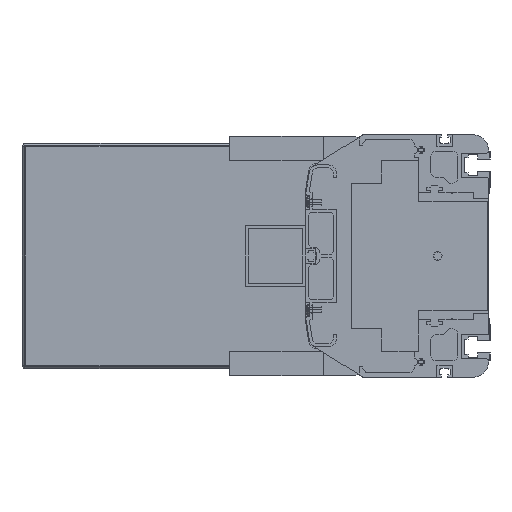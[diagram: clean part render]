
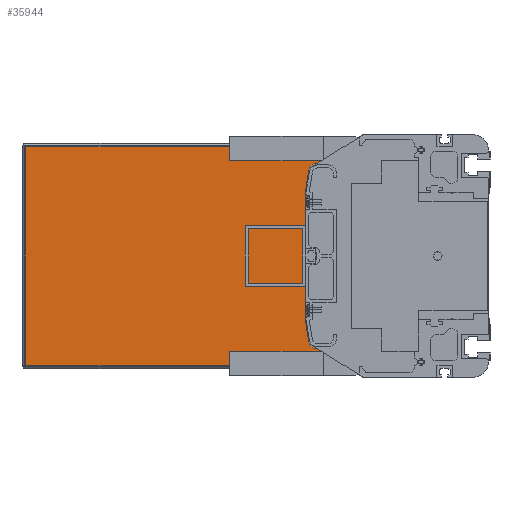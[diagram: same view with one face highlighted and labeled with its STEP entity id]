
A CAD part, left-side view. The second image highlights one B-rep face of the part: STEP entity #35944.
In plain terms, the highlighted planar face has unit normal (-1, 0, 0).
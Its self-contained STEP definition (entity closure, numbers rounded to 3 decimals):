
#2904=DIRECTION('',(0.,0.,-1.));
#2905=VECTOR('',#2904,11.);
#2906=CARTESIAN_POINT('',(3586.5,86.,-61.));
#2907=LINE('',#2906,#2905);
#2913=DIRECTION('',(0.,0.,-1.));
#2914=VECTOR('',#2913,11.);
#2915=CARTESIAN_POINT('',(3586.5,86.,72.));
#2916=LINE('',#2915,#2914);
#2926=DIRECTION('',(0.,-1.,0.));
#2927=VECTOR('',#2926,220.5);
#2928=CARTESIAN_POINT('',(3586.5,306.5,-72.));
#2929=LINE('',#2928,#2927);
#8092=DIRECTION('',(0.,1.,0.));
#8093=VECTOR('',#8092,28.728);
#8094=CARTESIAN_POINT('',(3586.5,86.,-61.));
#8095=LINE('',#8094,#8093);
#14342=DIRECTION('',(0.,-1.,0.));
#14343=VECTOR('',#14342,28.728);
#14344=CARTESIAN_POINT('',(3586.5,114.728,61.));
#14345=LINE('',#14344,#14343);
#14358=DIRECTION('',(0.,0.,1.));
#14359=VECTOR('',#14358,84.);
#14360=CARTESIAN_POINT('',(3586.5,122.,-42.));
#14361=LINE('',#14360,#14359);
#14370=CARTESIAN_POINT('',(3586.5,114.728,56.));
#14371=DIRECTION('',(-1.,0.,0.));
#14372=DIRECTION('',(0.,0.,1.));
#14373=AXIS2_PLACEMENT_3D('',#14370,#14371,#14372);
#14375=DIRECTION('',(0.,0.156,-0.988));
#14376=VECTOR('',#14375,14.963);
#14377=CARTESIAN_POINT('',(3586.5,119.666,56.78));
#14378=LINE('',#14377,#14376);
#14379=DIRECTION('',(0.,-0.156,-0.988));
#14380=VECTOR('',#14379,14.963);
#14381=CARTESIAN_POINT('',(3586.5,122.,-42.));
#14382=LINE('',#14381,#14380);
#14383=CARTESIAN_POINT('',(3586.5,114.728,-56.));
#14384=DIRECTION('',(-1.,0.,0.));
#14385=DIRECTION('',(0.,0.988,-0.156));
#14386=AXIS2_PLACEMENT_3D('',#14383,#14384,#14385);
#14392=DIRECTION('',(0.,0.,-1.));
#14393=VECTOR('',#14392,144.);
#14394=CARTESIAN_POINT('',(3586.5,306.5,72.));
#14395=LINE('',#14394,#14393);
#14561=DIRECTION('',(0.,1.,0.));
#14562=VECTOR('',#14561,220.5);
#14563=CARTESIAN_POINT('',(3586.5,86.,72.));
#14564=LINE('',#14563,#14562);
#17656=CARTESIAN_POINT('',(3586.5,306.5,-72.));
#17657=CARTESIAN_POINT('',(3586.5,86.,-72.));
#17658=VERTEX_POINT('',#17656);
#17659=VERTEX_POINT('',#17657);
#17660=CARTESIAN_POINT('',(3586.5,86.,-61.));
#17661=VERTEX_POINT('',#17660);
#17662=CARTESIAN_POINT('',(3586.5,114.728,-61.));
#17663=VERTEX_POINT('',#17662);
#17664=CARTESIAN_POINT('',(3586.5,119.666,-56.78));
#17665=VERTEX_POINT('',#17664);
#17666=CARTESIAN_POINT('',(3586.5,122.,-42.));
#17667=VERTEX_POINT('',#17666);
#17668=CARTESIAN_POINT('',(3586.5,122.,42.));
#17669=VERTEX_POINT('',#17668);
#17670=CARTESIAN_POINT('',(3586.5,119.666,56.78));
#17671=VERTEX_POINT('',#17670);
#17672=CARTESIAN_POINT('',(3586.5,114.728,61.));
#17673=VERTEX_POINT('',#17672);
#17674=CARTESIAN_POINT('',(3586.5,86.,61.));
#17675=VERTEX_POINT('',#17674);
#17676=CARTESIAN_POINT('',(3586.5,86.,72.));
#17677=VERTEX_POINT('',#17676);
#17678=CARTESIAN_POINT('',(3586.5,306.5,72.));
#17679=VERTEX_POINT('',#17678);
#35921=CARTESIAN_POINT('',(3586.5,196.25,0.));
#35922=DIRECTION('',(1.,0.,0.));
#35923=DIRECTION('',(0.,0.,-1.));
#35924=AXIS2_PLACEMENT_3D('',#35921,#35922,#35923);
#35925=PLANE('',#35924);
#35926=ORIENTED_EDGE('',*,*,#22980,.F.);
#35928=ORIENTED_EDGE('',*,*,#35927,.F.);
#35930=ORIENTED_EDGE('',*,*,#35929,.F.);
#35931=ORIENTED_EDGE('',*,*,#22962,.T.);
#35932=ORIENTED_EDGE('',*,*,#35873,.F.);
#35933=ORIENTED_EDGE('',*,*,#35886,.T.);
#35934=ORIENTED_EDGE('',*,*,#35902,.T.);
#35935=ORIENTED_EDGE('',*,*,#35912,.F.);
#35937=ORIENTED_EDGE('',*,*,#35936,.T.);
#35939=ORIENTED_EDGE('',*,*,#35938,.T.);
#35940=ORIENTED_EDGE('',*,*,#27450,.F.);
#35941=ORIENTED_EDGE('',*,*,#22930,.T.);
#35942=EDGE_LOOP('',(#35926,#35928,#35930,#35931,#35932,#35933,#35934,#35935,
#35937,#35939,#35940,#35941));
#35943=FACE_OUTER_BOUND('',#35942,.F.);
#35944=ADVANCED_FACE('',(#35943),#35925,.F.);
#14374=CIRCLE('',#14373,5.);
#14387=CIRCLE('',#14386,5.);
#22930=EDGE_CURVE('',#17661,#17659,#2907,.T.);
#22962=EDGE_CURVE('',#17677,#17675,#2916,.T.);
#22980=EDGE_CURVE('',#17658,#17659,#2929,.T.);
#27450=EDGE_CURVE('',#17661,#17663,#8095,.T.);
#35873=EDGE_CURVE('',#17673,#17675,#14345,.T.);
#35886=EDGE_CURVE('',#17673,#17671,#14374,.T.);
#35902=EDGE_CURVE('',#17671,#17669,#14378,.T.);
#35912=EDGE_CURVE('',#17667,#17669,#14361,.T.);
#35927=EDGE_CURVE('',#17679,#17658,#14395,.T.);
#35929=EDGE_CURVE('',#17677,#17679,#14564,.T.);
#35936=EDGE_CURVE('',#17667,#17665,#14382,.T.);
#35938=EDGE_CURVE('',#17665,#17663,#14387,.T.);
